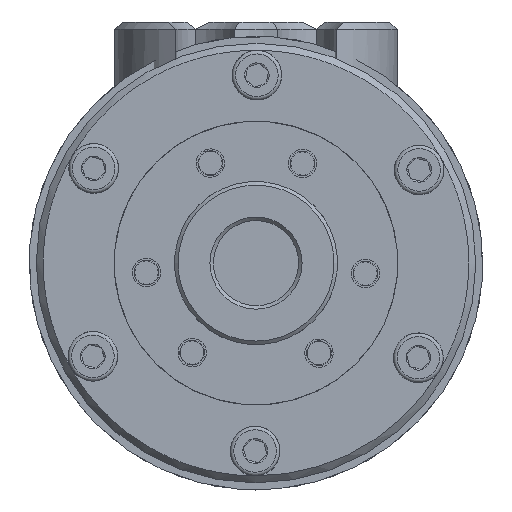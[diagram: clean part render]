
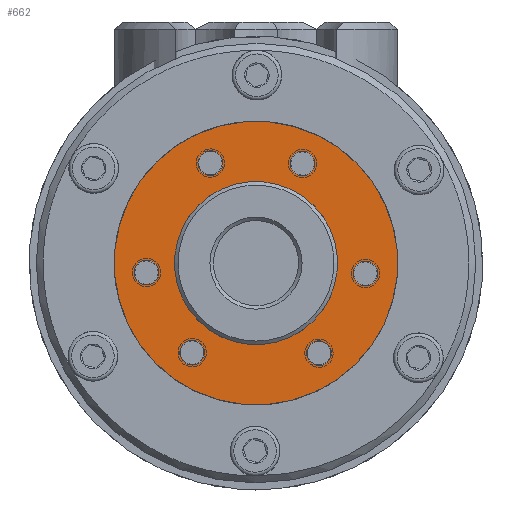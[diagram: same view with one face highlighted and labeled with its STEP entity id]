
A CAD part, left-side view. The second image highlights one B-rep face of the part: STEP entity #662.
In plain terms, the highlighted planar face has unit normal (-1, 0, 0) as drawn and (0, -1, 0) by its records, which use the part's own axes.
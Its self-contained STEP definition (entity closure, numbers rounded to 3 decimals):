
#662 = ADVANCED_FACE( '', ( #1439, #1440, #1441, #1442, #1443, #1444, #1445, #1446 ), #1447, .F. );
#1439 = FACE_OUTER_BOUND( '', #2398, .T. );
#1440 = FACE_BOUND( '', #2399, .T. );
#1441 = FACE_BOUND( '', #2400, .T. );
#1442 = FACE_BOUND( '', #2401, .T. );
#1443 = FACE_BOUND( '', #2402, .T. );
#1444 = FACE_BOUND( '', #2403, .T. );
#1445 = FACE_BOUND( '', #2404, .T. );
#1446 = FACE_BOUND( '', #2405, .T. );
#1447 = PLANE( '', #2406 );
#2398 = EDGE_LOOP( '', ( #4855 ) );
#2399 = EDGE_LOOP( '', ( #4856 ) );
#2400 = EDGE_LOOP( '', ( #4857 ) );
#2401 = EDGE_LOOP( '', ( #4858 ) );
#2402 = EDGE_LOOP( '', ( #4859 ) );
#2403 = EDGE_LOOP( '', ( #4860 ) );
#2404 = EDGE_LOOP( '', ( #4861 ) );
#2405 = EDGE_LOOP( '', ( #4862 ) );
#2406 = AXIS2_PLACEMENT_3D( '', #4863, #4864, #4865 );
#4855 = ORIENTED_EDGE( '', *, *, #6105, .T. );
#4856 = ORIENTED_EDGE( '', *, *, #6108, .F. );
#4857 = ORIENTED_EDGE( '', *, *, #6106, .F. );
#4858 = ORIENTED_EDGE( '', *, *, #6109, .F. );
#4859 = ORIENTED_EDGE( '', *, *, #6110, .F. );
#4860 = ORIENTED_EDGE( '', *, *, #6111, .F. );
#4861 = ORIENTED_EDGE( '', *, *, #6112, .F. );
#4862 = ORIENTED_EDGE( '', *, *, #6113, .F. );
#4863 = CARTESIAN_POINT( '', ( 0., 0., 20. ) );
#4864 = DIRECTION( '', ( 0., 1., 0. ) );
#4865 = DIRECTION( '', ( 1., 0., 0. ) );
#6105 = EDGE_CURVE( '', #7146, #7146, #7147, .T. );
#6106 = EDGE_CURVE( '', #7148, #7148, #7149, .T. );
#6108 = EDGE_CURVE( '', #7152, #7152, #7153, .T. );
#6109 = EDGE_CURVE( '', #7154, #7154, #7155, .T. );
#6110 = EDGE_CURVE( '', #7156, #7156, #7157, .T. );
#6111 = EDGE_CURVE( '', #7158, #7158, #7159, .T. );
#6112 = EDGE_CURVE( '', #7160, #7160, #7161, .T. );
#6113 = EDGE_CURVE( '', #7162, #7162, #7163, .T. );
#7146 = VERTEX_POINT( '', #8992 );
#7147 = CIRCLE( '', #8993, 20. );
#7148 = VERTEX_POINT( '', #8994 );
#7149 = CIRCLE( '', #8995, 1.65 );
#7152 = VERTEX_POINT( '', #8998 );
#7153 = CIRCLE( '', #8999, 1.65 );
#7154 = VERTEX_POINT( '', #9000 );
#7155 = CIRCLE( '', #9001, 1.65 );
#7156 = VERTEX_POINT( '', #9002 );
#7157 = CIRCLE( '', #9003, 1.65 );
#7158 = VERTEX_POINT( '', #9004 );
#7159 = CIRCLE( '', #9005, 1.65 );
#7160 = VERTEX_POINT( '', #9006 );
#7161 = CIRCLE( '', #9007, 1.65 );
#7162 = VERTEX_POINT( '', #9008 );
#7163 = CIRCLE( '', #9009, 11.5 );
#8992 = CARTESIAN_POINT( '', ( 0., 0., -20. ) );
#8993 = AXIS2_PLACEMENT_3D( '', #10783, #10784, #10785 );
#8994 = CARTESIAN_POINT( '', ( 6.925, 0., -11.994 ) );
#8995 = AXIS2_PLACEMENT_3D( '', #10786, #10787, #10788 );
#8998 = CARTESIAN_POINT( '', ( -6.021, 0., -13.174 ) );
#8999 = AXIS2_PLACEMENT_3D( '', #10792, #10793, #10794 );
#9000 = CARTESIAN_POINT( '', ( 14.42, 0., 1.372 ) );
#9001 = AXIS2_PLACEMENT_3D( '', #10795, #10796, #10797 );
#9002 = CARTESIAN_POINT( '', ( 6.925, 0., 11.994 ) );
#9003 = AXIS2_PLACEMENT_3D( '', #10798, #10799, #10800 );
#9004 = CARTESIAN_POINT( '', ( -8.398, 0., 11.802 ) );
#9005 = AXIS2_PLACEMENT_3D( '', #10801, #10802, #10803 );
#9006 = CARTESIAN_POINT( '', ( -13.85, 0., 0. ) );
#9007 = AXIS2_PLACEMENT_3D( '', #10804, #10805, #10806 );
#9008 = CARTESIAN_POINT( '', ( 0., 0., -11.5 ) );
#9009 = AXIS2_PLACEMENT_3D( '', #10807, #10808, #10809 );
#10783 = CARTESIAN_POINT( '', ( 0., 0., 0. ) );
#10784 = DIRECTION( '', ( 0., -1., 0. ) );
#10785 = DIRECTION( '', ( 0., 0., -1. ) );
#10786 = CARTESIAN_POINT( '', ( 7.75, 0., -13.423 ) );
#10787 = DIRECTION( '', ( 0., -1., 0. ) );
#10788 = DIRECTION( '', ( -0.5, 0., 0.866 ) );
#10792 = CARTESIAN_POINT( '', ( -5.196, 0., -14.603 ) );
#10793 = DIRECTION( '', ( 0., -1., 0. ) );
#10794 = DIRECTION( '', ( -0.5, 0., 0.866 ) );
#10795 = CARTESIAN_POINT( '', ( 15.245, 0., 2.801 ) );
#10796 = DIRECTION( '', ( 0., -1., 0. ) );
#10797 = DIRECTION( '', ( -0.5, 0., -0.866 ) );
#10798 = CARTESIAN_POINT( '', ( 7.75, 0., 13.423 ) );
#10799 = DIRECTION( '', ( 0., -1., 0. ) );
#10800 = DIRECTION( '', ( -0.5, 0., -0.866 ) );
#10801 = CARTESIAN_POINT( '', ( -10.048, 0., 11.802 ) );
#10802 = DIRECTION( '', ( 0., -1., 0. ) );
#10803 = DIRECTION( '', ( 1., 0., 0. ) );
#10804 = CARTESIAN_POINT( '', ( -15.5, 0., 0. ) );
#10805 = DIRECTION( '', ( 0., -1., 0. ) );
#10806 = DIRECTION( '', ( 1., 0., 0. ) );
#10807 = CARTESIAN_POINT( '', ( 0., 0., 0. ) );
#10808 = DIRECTION( '', ( 0., -1., 0. ) );
#10809 = DIRECTION( '', ( 0., 0., -1. ) );
